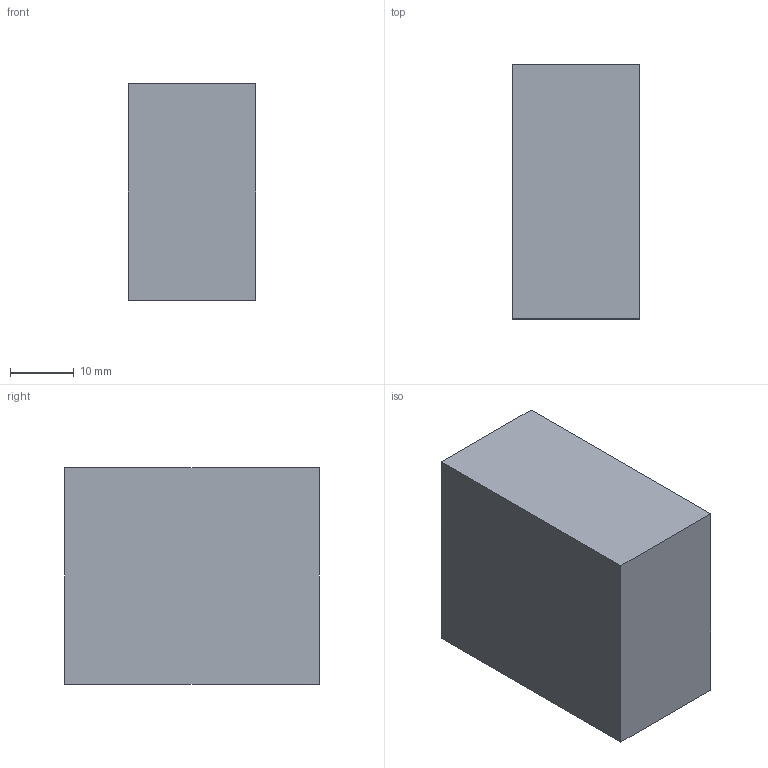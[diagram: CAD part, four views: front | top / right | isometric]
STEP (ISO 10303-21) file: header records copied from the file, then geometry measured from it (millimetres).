
FILE_DESCRIPTION(/* description */ ('STEP AP242','CAx-IF Rec.Pracs.---Representation and Presentation of Product Manufacturing Information (PMI)---4.0---2014-10-13','CAx-IF Rec.Pracs.---3D Tessellated Geometry---0.4---2014-09-14','2;1'),/* implementation_level */ '2;1');
FILE_NAME(/* name */ '65d97b1d26fcd7072ec13f78',/* time_stamp */ '2024-02-24T05:14:05Z',/* author */ (''),/* organization */ (''),/* preprocessor_version */ 'ST-DEVELOPER v19.4',/* originating_system */ ' ',/* authorisation */ ' ');
FILE_SCHEMA (('AP242_MANAGED_MODEL_BASED_3D_ENGINEERING_MIM_LF { 1 0 10303 442 1 1 4 }'));
Length unit declared in the file: metre
Products named in the file (1): Part 1
Bounding box: 20 x 40 x 34 mm (x, y, z)
Volume: 27200 mm3; surface area: 5680 mm2
Topology: 1 solids, 1 shells, 6 faces, 12 edges, 8 vertices
Faces by surface type: plane 6
Entity records: 178 total; most frequent: CARTESIAN_POINT 27, DIRECTION 26, ORIENTED_EDGE 24, EDGE_CURVE 12, LINE 12, VECTOR 12, VERTEX_POINT 8, AXIS2_PLACEMENT_3D 7
